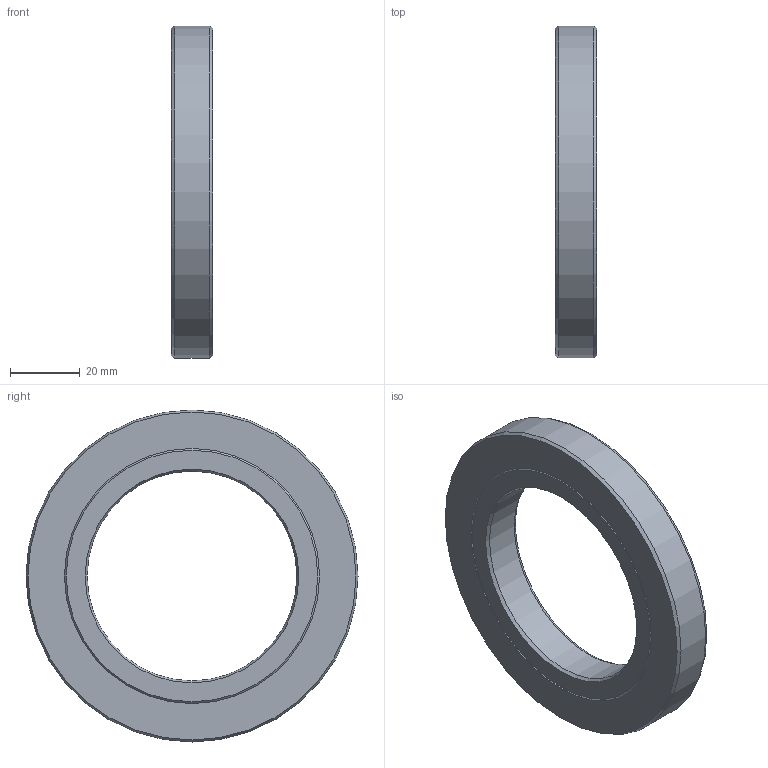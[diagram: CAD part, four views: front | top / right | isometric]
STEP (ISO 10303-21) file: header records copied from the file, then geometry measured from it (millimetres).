
FILE_DESCRIPTION(/* description */ (''),/* implementation_level */ '2;1');
FILE_NAME(/* name */ '301618 S60x95x12.stp',/* time_stamp */ '2016-12-16T13:50:14+01:00',/* author */ (''),/* organization */ (''),/* preprocessor_version */ 'ST-DEVELOPER v15',/* originating_system */ 'SIEMENS PLM Software NX 8.5',/* authorisation */ '');
FILE_SCHEMA (('CONFIG_CONTROL_DESIGN'));
Length unit declared in the file: millimetre
Products named in the file (1): ATE0000143_01
Bounding box: 12 x 95 x 95 mm (x, y, z)
Volume: 49345.5 mm3; surface area: 21357.3 mm2
Topology: 2 solids, 2 shells, 16 faces, 30 edges, 18 vertices
Faces by surface type: cone 10, plane 4, cylinder 2
Full cylindrical faces by diameter (mm): 60 x1, 95 x1
Entity records: 414 total; most frequent: DIRECTION 66, CARTESIAN_POINT 49, AXIS2_PLACEMENT_3D 33, FACE_BOUND 32, EDGE_LOOP 32, ORIENTED_EDGE 32, ADVANCED_FACE 16, VERTEX_POINT 16
